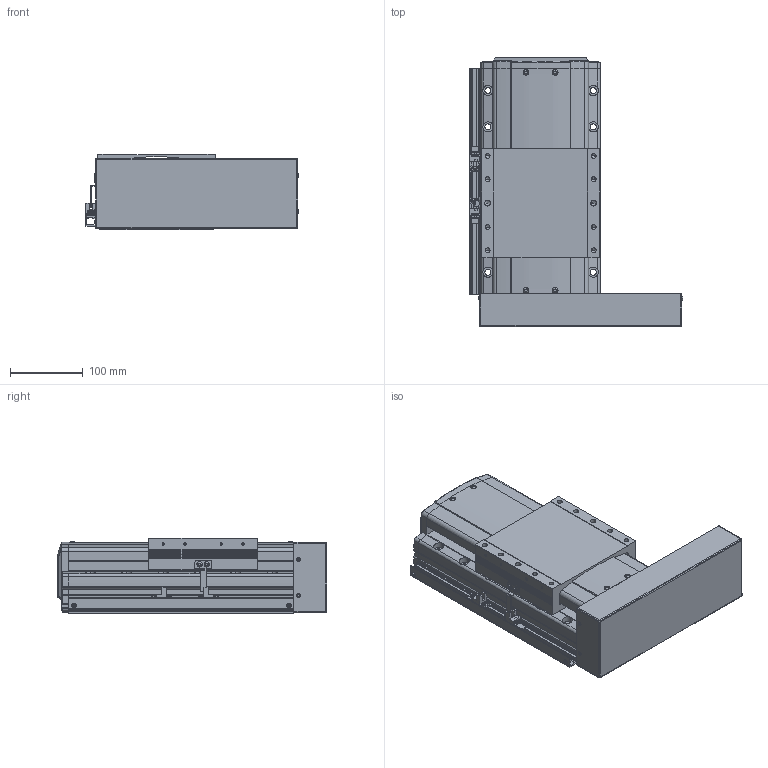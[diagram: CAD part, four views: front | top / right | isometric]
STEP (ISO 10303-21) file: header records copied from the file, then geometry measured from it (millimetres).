
FILE_DESCRIPTION(('STEP AP214'),'1');
FILE_NAME('Z:/Web/3D/PSA165/STP/PSA165-050 (3D)/PSA165ㅁㅁ-050PR+2SL.stp','2014-06-23T06:27:37',(' '),(' '),'Spatial InterOp 3D',' ',' ');
FILE_SCHEMA(('automotive_design'));
Length unit declared in the file: millimetre
Products named in the file (37): 스크루 : Round - M4.0 x 12.0; RRCV-PA160; BASE; 스크루 : Round - M4.0 x 10.0; RN15; Screw 20; SLIDE; FRCV; MTPL; 스크루 : Round - M3.0 x 6.0; M3.0 x 6.0; SRL-16x17-360L; SGD-SAN150; EE-SX674; SBK-SX674-352; BHCS M4.0 x 10.0
Bounding box: 294.46 x 370.8 x 104 mm (x, y, z)
Volume: 5954417.6 mm3; surface area: 541308.5 mm2
Topology: 37 solids, 37 shells, 2255 faces, 6037 edges, 3886 vertices
Faces by surface type: plane 1332, cylinder 643, cone 179, sphere 60, bspline 25, torus 16
Entity records: 91487 total; most frequent: CARTESIAN_POINT 15787, DIRECTION 12021, ORIENTED_EDGE 11850, EDGE_CURVE 5925, LINE 4073, VECTOR 4073, AXIS2_PLACEMENT_3D 3974, VERTEX_POINT 3886
